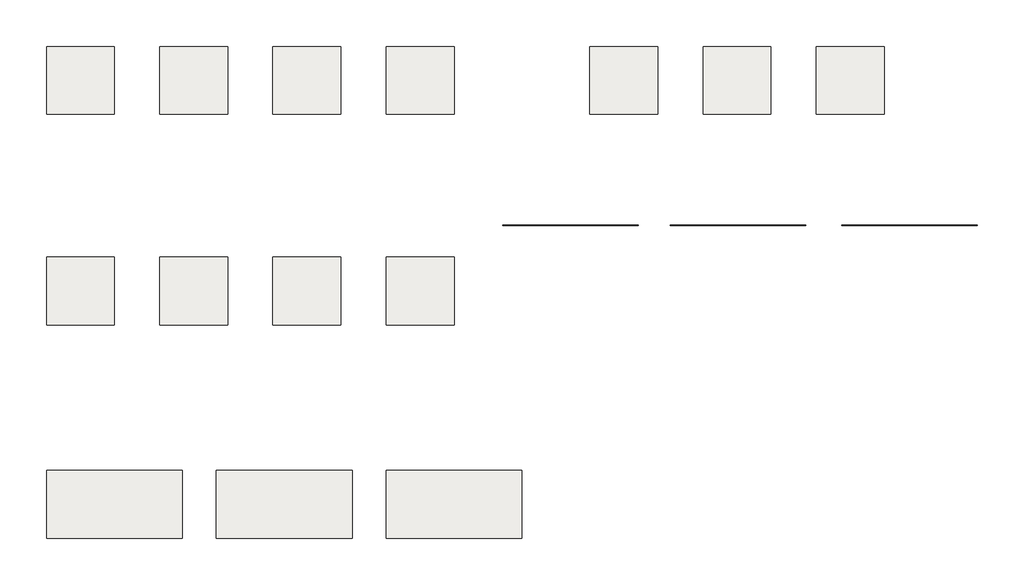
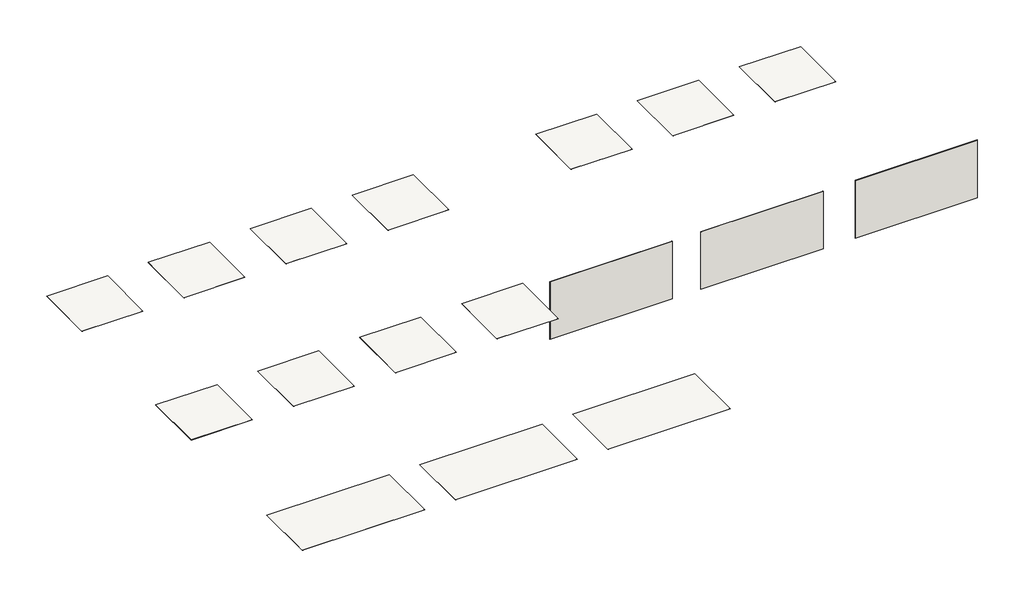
# One storey: 14 slabs, 3 walls.
"""IFC4 building model written with IfcOpenShell, lengths in millimetres."""

from ifc_helpers import new_model, si_unit, frame, origin, place, context, project, spatial, polyline, outline, extrude, element, save

model = new_model("IFC4")

# Units and contexts
model_context = context("Model", 3, world=origin())
ifc_project = project(units=[si_unit("LENGTHUNIT", "METRE", prefix="MILLI")], contexts=[model_context])

# Site, building, storey
site = spatial("IfcSite", under=ifc_project)
building = spatial("IfcBuilding", under=site)
storey = spatial("IfcBuildingStorey", under=building, Name="CEPPO DI GRE FLOOR TILES", Elevation=0.0)

# Slabs
placement = place(None, origin())
element("IfcSlab", 1, ObjectType="VIVES - CEPPO DI GRE CEMENTO 60x60", at=placement, inside=storey, context=model_context, shape_type="SweptSolid", body=[
    extrude(outline(polyline([(-2282.3173478, -5970.5675692), (-2282.3173478, -6570.5675692), (-2882.3173478, -6570.5675692), (-2882.3173478, -5970.5675692), (-2282.3173478, -5970.5675692)])), frame((0.0, 0.0, -1.0), z_axis=(0.0, 0.0, 1.0), x_axis=(1.0, 0.0, 0.0)), (0.0, 0.0, 1.0), 1.0),
])
element("IfcSlab", 2, ObjectType="VIVES - CEPPO DI GRE GRIS 60x60", at=placement, inside=storey, context=model_context, shape_type="SweptSolid", body=[
    extrude(outline(polyline([(-1282.3173478, -5970.5675692), (-1282.3173478, -6570.5675692), (-1882.3173478, -6570.5675692), (-1882.3173478, -5970.5675692), (-1282.3173478, -5970.5675692)])), frame((0.0, 0.0, -1.0), z_axis=(0.0, 0.0, 1.0), x_axis=(1.0, 0.0, 0.0)), (0.0, 0.0, 1.0), 1.0),
])
element("IfcSlab", 3, ObjectType="VIVES - CEPPO DI GRE MARFIL 60x60", at=placement, inside=storey, context=model_context, shape_type="SweptSolid", body=[
    extrude(outline(polyline([(-282.3173478, -5970.5675692), (-282.3173478, -6570.5675692), (-882.3173478, -6570.5675692), (-882.3173478, -5970.5675692), (-282.3173478, -5970.5675692)])), frame((0.0, 0.0, -1.0), z_axis=(0.0, 0.0, 1.0), x_axis=(1.0, 0.0, 0.0)), (0.0, 0.0, 1.0), 1.0),
])
element("IfcSlab", 4, ObjectType="VIVES - ORIYAS NATURAL 60x60", at=placement, inside=storey, context=model_context, shape_type="SweptSolid", body=[
    extrude(outline(polyline([(717.6826522, -5970.5675692), (717.6826522, -6570.5675692), (117.6826522, -6570.5675692), (117.6826522, -5970.5675692), (717.6826522, -5970.5675692)])), frame((0.0, 0.0, -1.0), z_axis=(0.0, 0.0, 1.0), x_axis=(1.0, 0.0, 0.0)), (0.0, 0.0, 1.0), 1.0),
])
element("IfcSlab", 5, ObjectType="VIVES - CEPPO DI GRE-R CEMENTO 59.3x59.3", at=placement, inside=storey, context=model_context, shape_type="SweptSolid", body=[
    extrude(outline(polyline([(-2282.3173478, -4110.5675692), (-2282.3173478, -4710.5675692), (-2882.3173478, -4710.5675692), (-2882.3173478, -4110.5675692), (-2282.3173478, -4110.5675692)])), frame((0.0, 0.0, -1.0), z_axis=(0.0, 0.0, 1.0), x_axis=(1.0, 0.0, 0.0)), (0.0, 0.0, 1.0), 1.0),
])
element("IfcSlab", 6, ObjectType="VIVES - CEPPO DI GRE-R GRIS 59.3x59.3", at=placement, inside=storey, context=model_context, shape_type="SweptSolid", body=[
    extrude(outline(polyline([(-1282.3173478, -4110.5675692), (-1282.3173478, -4710.5675692), (-1882.3173478, -4710.5675692), (-1882.3173478, -4110.5675692), (-1282.3173478, -4110.5675692)])), frame((0.0, 0.0, -1.0), z_axis=(0.0, 0.0, 1.0), x_axis=(1.0, 0.0, 0.0)), (0.0, 0.0, 1.0), 1.0),
])
element("IfcSlab", 7, ObjectType="VIVES - CEPPO DI GRE-R MARFIL 59.3x59.3", at=placement, inside=storey, context=model_context, shape_type="SweptSolid", body=[
    extrude(outline(polyline([(-282.3173478, -4110.5675692), (-282.3173478, -4710.5675692), (-882.3173478, -4710.5675692), (-882.3173478, -4110.5675692), (-282.3173478, -4110.5675692)])), frame((0.0, 0.0, -1.0), z_axis=(0.0, 0.0, 1.0), x_axis=(1.0, 0.0, 0.0)), (0.0, 0.0, 1.0), 1.0),
])
element("IfcSlab", 8, ObjectType="VIVES - ORIYAS-R NATURAL 59.3x59.3", at=placement, inside=storey, context=model_context, shape_type="SweptSolid", body=[
    extrude(outline(polyline([(717.6826522, -4110.5675692), (717.6826522, -4710.5675692), (117.6826522, -4710.5675692), (117.6826522, -4110.5675692), (717.6826522, -4110.5675692)])), frame((0.0, 0.0, -1.0), z_axis=(0.0, 0.0, 1.0), x_axis=(1.0, 0.0, 0.0)), (0.0, 0.0, 1.0), 1.0),
])
element("IfcSlab", 9, ObjectType="VIVES - MOS. AYMARAS CEMENTO 24.2x39.5", at=placement, inside=storey, context=model_context, shape_type="SweptSolid", body=[
    extrude(outline(polyline([(1917.6826522, -4110.5675692), (2517.6826522, -4110.5675692), (2517.6826522, -4710.5675692), (1917.6826522, -4710.5675692), (1917.6826522, -4110.5675692)])), frame((0.0, 0.0, -1.0), z_axis=(0.0, 0.0, 1.0), x_axis=(1.0, 0.0, 0.0)), (0.0, 0.0, 1.0), 1.0),
])
element("IfcSlab", 10, ObjectType="VIVES - MOS. AYMARAS GRIS 24.2x39.5", at=placement, inside=storey, context=model_context, shape_type="SweptSolid", body=[
    extrude(outline(polyline([(2917.6826522, -4110.5675692), (3517.6826522, -4110.5675692), (3517.6826522, -4710.5675692), (2917.6826522, -4710.5675692), (2917.6826522, -4110.5675692)])), frame((0.0, 0.0, -1.0), z_axis=(0.0, 0.0, 1.0), x_axis=(1.0, 0.0, 0.0)), (0.0, 0.0, 1.0), 1.0),
])
element("IfcSlab", 11, ObjectType="VIVES - MOS. AYMARAS MARFIL 24.2x39.5", at=placement, inside=storey, context=model_context, shape_type="SweptSolid", body=[
    extrude(outline(polyline([(3917.6826522, -4110.5675692), (4517.6826522, -4110.5675692), (4517.6826522, -4710.5675692), (3917.6826522, -4710.5675692), (3917.6826522, -4110.5675692)])), frame((0.0, 0.0, -1.0), z_axis=(0.0, 0.0, 1.0), x_axis=(1.0, 0.0, 0.0)), (0.0, 0.0, 1.0), 1.0),
])
element("IfcSlab", 12, ObjectType="VIVES - CEPPO DI GRE-R CEMENTO 59.3x119.3", at=placement, inside=storey, context=model_context, shape_type="SweptSolid", body=[
    extrude(outline(polyline([(-2882.3173478, -7858.1264234), (-1682.3173478, -7858.1264234), (-1682.3173478, -8458.1264234), (-2882.3173478, -8458.1264234), (-2882.3173478, -7858.1264234)])), frame((0.0, 0.0, -1.1), z_axis=(0.0, 0.0, 1.0), x_axis=(1.0, 0.0, 0.0)), (0.0, 0.0, 1.0), 1.1),
])
element("IfcSlab", 13, ObjectType="VIVES - CEPPO DI GRE-R GRIS 59.3x119.3", at=placement, inside=storey, context=model_context, shape_type="SweptSolid", body=[
    extrude(outline(polyline([(-1382.3173478, -7858.1264234), (-182.3173478, -7858.1264234), (-182.3173478, -8458.1264234), (-1382.3173478, -8458.1264234), (-1382.3173478, -7858.1264234)])), frame((0.0, 0.0, -1.1), z_axis=(0.0, 0.0, 1.0), x_axis=(1.0, 0.0, 0.0)), (0.0, 0.0, 1.0), 1.1),
])
element("IfcSlab", 14, ObjectType="VIVES - CEPPO DI GRE-R MARFIL 59.3x119.3", at=placement, inside=storey, context=model_context, shape_type="SweptSolid", body=[
    extrude(outline(polyline([(117.6826522, -7858.1264234), (1317.6826522, -7858.1264234), (1317.6826522, -8458.1264234), (117.6826522, -8458.1264234), (117.6826522, -7858.1264234)])), frame((0.0, 0.0, -1.1), z_axis=(0.0, 0.0, 1.0), x_axis=(1.0, 0.0, 0.0)), (0.0, 0.0, 1.0), 1.1),
])

# Walls
element("IfcWall", 15, ObjectType="VIVES CEPPO DI GRE-R CEMENTO 59.3x119.3", at=placement, inside=storey, context=model_context, shape_type="SweptSolid", body=[
    extrude(outline(polyline([(2346.5807151, -5691.5806872), (1146.5807151, -5691.5806872), (1146.5807151, -5690.4806872), (2346.5807151, -5690.4806872), (2346.5807151, -5691.5806872)])), frame((0.0, 0.0, -900.0), z_axis=(0.0, 0.0, 1.0), x_axis=(1.0, 0.0, 0.0)), (0.0, 0.0, 1.0), 600.0),
])
element("IfcWall", 16, ObjectType="VIVES CEPPO DI GRE-R GRIS 59.3x119.3", at=placement, inside=storey, context=model_context, shape_type="SweptSolid", body=[
    extrude(outline(polyline([(3826.5807151, -5691.5306872), (2626.5807151, -5691.5306872), (2626.5807151, -5690.5306872), (3826.5807151, -5690.5306872), (3826.5807151, -5691.5306872)])), frame((0.0, 0.0, -900.0), z_axis=(0.0, 0.0, 1.0), x_axis=(1.0, 0.0, 0.0)), (0.0, 0.0, 1.0), 600.0),
])
element("IfcWall", 17, ObjectType="VIVES CEPPO DI GRE-R MARFIL 59.3x119.3", at=placement, inside=storey, context=model_context, shape_type="SweptSolid", body=[
    extrude(outline(polyline([(5341.5807151, -5691.5306872), (4141.5807151, -5691.5306872), (4141.5807151, -5690.5306872), (5341.5807151, -5690.5306872), (5341.5807151, -5691.5306872)])), frame((0.0, 0.0, -900.0), z_axis=(0.0, 0.0, 1.0), x_axis=(1.0, 0.0, 0.0)), (0.0, 0.0, 1.0), 600.0),
])

save(model, "model.ifc")
